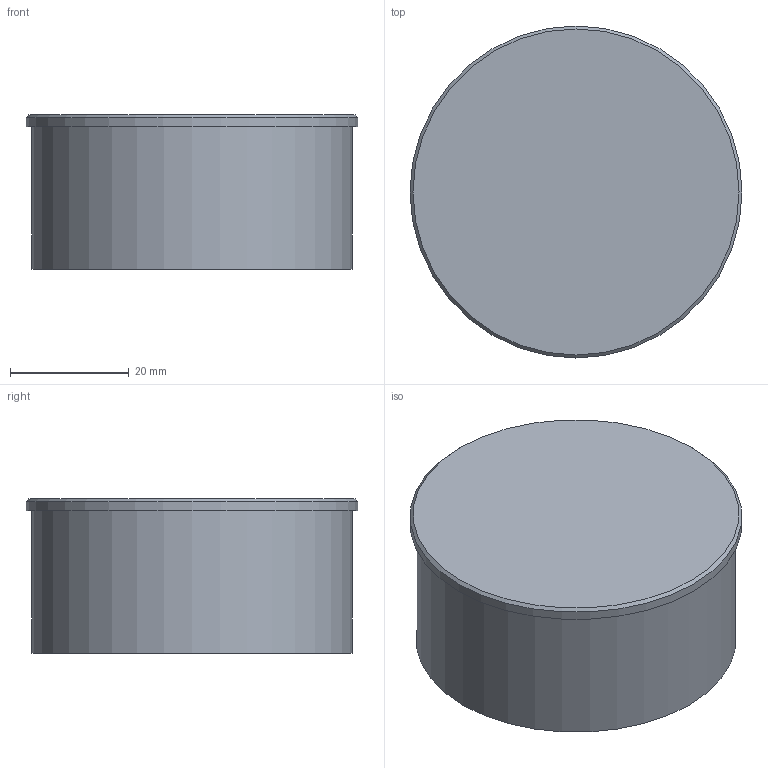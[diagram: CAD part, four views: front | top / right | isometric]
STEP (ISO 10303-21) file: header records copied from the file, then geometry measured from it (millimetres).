
FILE_DESCRIPTION (( 'STEP AP214' ), '1' );
FILE_NAME ('ﾂﾇﾊﾂ7ﾀ.STEP', '2021-05-19T08:12:55', ( '' ), ( '' ), 'SwSTEP 2.0', 'SolidWorks 2018', '' );
FILE_SCHEMA (( 'AUTOMOTIVE_DESIGN' ));
Length unit declared in the file: millimetre
Products named in the file (1): ﾂﾇﾊﾂ7ﾀ
Bounding box: 56 x 56 x 26 mm (x, y, z)
Volume: 29697.6 mm3; surface area: 11760.5 mm2
Topology: 1 solids, 1 shells, 8 faces, 11 edges, 7 vertices
Faces by surface type: plane 4, cylinder 3, cone 1
Full cylindrical faces by diameter (mm): 49 x1, 54 x1, 56 x1
Entity records: 188 total; most frequent: DIRECTION 32, CARTESIAN_POINT 23, AXIS2_PLACEMENT_3D 16, EDGE_LOOP 14, ORIENTED_EDGE 14, FACE_OUTER_BOUND 11, ADVANCED_FACE 8, CIRCLE 7
